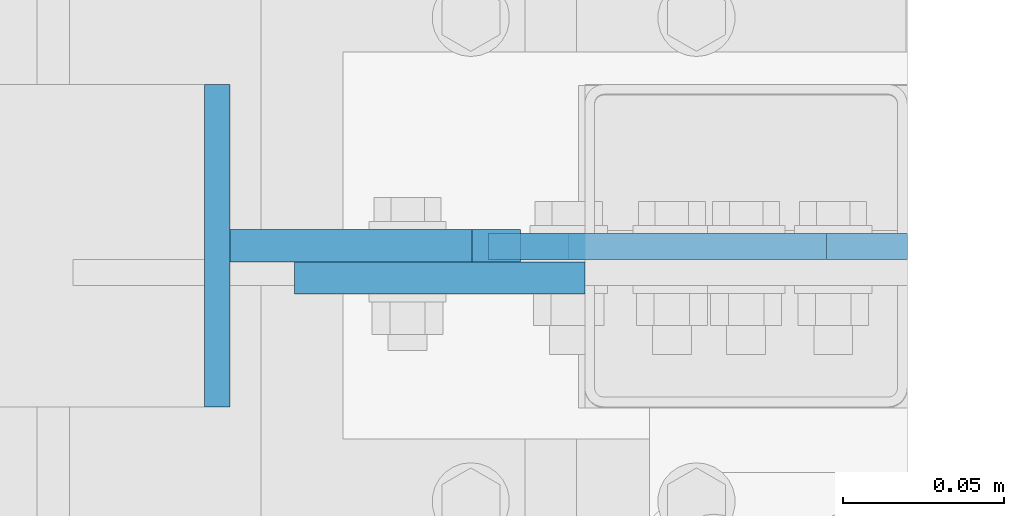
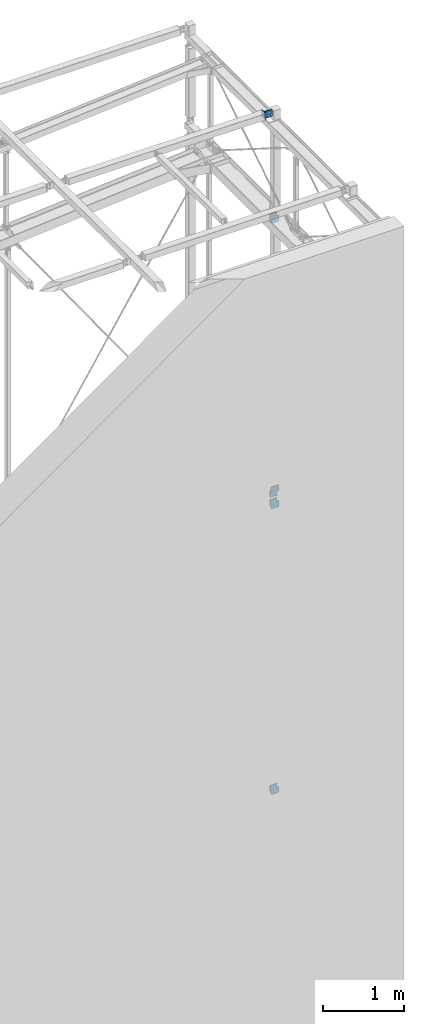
# One storey, part 176 of 271: 7 plates, 5 elements without a shape of their own.
"""IFC2X3 building model written with IfcOpenShell, lengths in millimetres."""

from ifc_helpers import new_model, si_unit, frame, origin_with_axes, place, context, subcontext, project, spatial, polyline, outline, extrude, material, type_object, element, aggregate, save


model = new_model("IFC2X3")

# Units and contexts
model_context = context("Model", 3, precision=1e-05, world=origin_with_axes())
body_context = subcontext(model_context, "Body", "Model", "MODEL_VIEW")
ifc_project = project(units=[si_unit("LENGTHUNIT", "METRE", prefix="MILLI"), si_unit("AREAUNIT", "SQUARE_METRE"), si_unit("VOLUMEUNIT", "CUBIC_METRE"), si_unit("MASSUNIT", "GRAM", prefix="KILO"), si_unit("TIMEUNIT", "SECOND"), si_unit("PLANEANGLEUNIT", "RADIAN"), si_unit("SOLIDANGLEUNIT", "STERADIAN"), si_unit("THERMODYNAMICTEMPERATUREUNIT", "DEGREE_CELSIUS"), si_unit("LUMINOUSINTENSITYUNIT", "LUMEN")], contexts=[model_context])

# Site, building, storey
site_placement = place(None, origin_with_axes())
site = spatial("IfcSite", under=ifc_project, at=site_placement, Name="Undefined", CompositionType="ELEMENT")
building_placement = place(site_placement, origin_with_axes())
building = spatial("IfcBuilding", under=site, at=building_placement, Name="Undefined", CompositionType="ELEMENT")
storey_placement = place(building_placement, origin_with_axes())
storey = spatial("IfcBuildingStorey", under=building, at=storey_placement, Name="Undefined", CompositionType="ELEMENT", Elevation=0.0)

# Assembly, plate
assembly_1_placement = place(storey_placement, origin_with_axes())
assembly_1 = element("IfcElementAssembly", 1, at=assembly_1_placement, inside=storey, AssemblyPlace="NOTDEFINED", PredefinedType="RIGID_FRAME")
ifc_material = material(Name="STEEL/S355JR")
plate_type_1 = type_object("IfcPlateType", Name="BL8*100", PredefinedType="NOTDEFINED")
plate_1_placement = place(assembly_1_placement, frame((12494.3756870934, 2749.32498425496, 20204.3499999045), z_axis=(1.0, 0.0, 0.0), x_axis=(0.0, 0.0, -1.0)))
plate_1 = element("IfcPlate", 2, at=plate_1_placement, type_object=plate_type_1, material=ifc_material, Name="BLACHA", ObjectType="BL8*100", context=body_context, shape_type="SweptSolid", body=[
    extrude(outline(polyline([(0.0, 0.0), (100.0, 0.0), (100.0, 100.0), (1.59161572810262e-12, 100.0), (0.0, 0.0)])), frame((0.0, 0.0, -4.0), z_axis=(0.0, 0.0, 1.0), x_axis=(1.0, 0.0, 0.0)), (0.0, 0.0, 1.0), 8.0),
])

# Assembly, plates
assembly_2_placement = place(storey_placement, origin_with_axes())
assembly_2 = element("IfcElementAssembly", 3, at=assembly_2_placement, inside=storey, AssemblyPlace="NOTDEFINED", PredefinedType="RIGID_FRAME")
plate_type_2 = type_object("IfcPlateType", Name="BL8*130", PredefinedType="NOTDEFINED")
plate_2_placement = place(assembly_2_placement, frame((12578.3756870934, 2799.05211980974, 18476.8499999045), z_axis=(0.0, 1.0, 0.0), x_axis=(0.0, 0.0, 1.0)))
plate_2 = element("IfcPlate", 4, at=plate_2_placement, type_object=plate_type_2, material=ifc_material, Name="BLACHA", ObjectType="BL8*130", context=body_context, shape_type="SweptSolid", body=[
    extrude(outline(polyline([(0.0, 25.0), (70.0, -8.66862137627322e-13), (150.0, -1.68398628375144e-12), (150.0, 105.0), (90.0, 105.0), (90.0, 130.0), (-3.5527136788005e-14, 130.0), (0.0, 25.0)])), frame((0.0, 0.0, -4.0), z_axis=(0.0, 0.0, 1.0), x_axis=(1.0, 0.0, 0.0)), (0.0, 0.0, 1.0), 8.0),
])
plate_3_placement = place(assembly_2_placement, frame((12578.3756870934, 2799.05211980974, 14491.8499999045), z_axis=(0.0, -1.0, 0.0), x_axis=(0.0, 0.0, -1.0)))
plate_3 = element("IfcPlate", 5, at=plate_3_placement, type_object=plate_type_2, material=ifc_material, Name="BLACHA", ObjectType="BL8*130", context=body_context, shape_type="SweptSolid", body=[
    extrude(outline(polyline([(0.0, 25.0), (70.0, -8.66862137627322e-13), (155.0, -2.06057393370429e-12), (155.0, 105.0), (94.9999999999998, 105.0), (94.9999999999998, 130.0), (-3.5527136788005e-14, 130.0), (0.0, 25.0)])), frame((0.0, 0.0, -4.0), z_axis=(0.0, 0.0, 1.0), x_axis=(1.0, 0.0, 0.0)), (0.0, 0.0, 1.0), 8.0),
])
aggregate(assembly_2, [plate_2, plate_3])

# Assembly, plate
assembly_3_placement = place(storey_placement, origin_with_axes())
assembly_3 = element("IfcElementAssembly", 6, at=assembly_3_placement, inside=storey, AssemblyPlace="NOTDEFINED", PredefinedType="RIGID_FRAME")
plate_4_placement = place(assembly_3_placement, frame((12578.3756870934, 2799.05211980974, 14156.8499999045), z_axis=(0.0, 1.0, 0.0), x_axis=(0.0, 0.0, 1.0)))
plate_4 = element("IfcPlate", 7, at=plate_4_placement, type_object=plate_type_2, material=ifc_material, Name="BLACHA", ObjectType="BL8*130", context=body_context, shape_type="SweptSolid", body=[
    extrude(outline(polyline([(0.0, 25.0), (70.0, -8.66862137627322e-13), (150.0, -1.68398628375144e-12), (150.0, 105.0), (90.0, 105.0), (90.0, 130.0), (-3.5527136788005e-14, 130.0), (0.0, 25.0)])), frame((0.0, 0.0, -4.0), z_axis=(0.0, 0.0, 1.0), x_axis=(1.0, 0.0, 0.0)), (0.0, 0.0, 1.0), 8.0),
])
aggregate(assembly_3, [plate_4])

assembly_4_placement = place(storey_placement, origin_with_axes())
assembly_4 = element("IfcElementAssembly", 8, at=assembly_4_placement, inside=storey, AssemblyPlace="NOTDEFINED", PredefinedType="RIGID_FRAME")
plate_5_placement = place(assembly_4_placement, frame((12578.3756870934, 2799.05211980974, 9836.84999990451), z_axis=(0.0, 1.0, 0.0), x_axis=(0.0, 0.0, 1.0)))
plate_5 = element("IfcPlate", 9, at=plate_5_placement, type_object=plate_type_2, material=ifc_material, Name="BLACHA", ObjectType="BL8*130", context=body_context, shape_type="SweptSolid", body=[
    extrude(outline(polyline([(0.0, 25.0), (70.0, -8.66862137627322e-13), (150.0, -1.68398628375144e-12), (150.0, 105.0), (90.0, 105.0), (90.0, 130.0), (-3.5527136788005e-14, 130.0), (0.0, 25.0)])), frame((0.0, 0.0, -4.0), z_axis=(0.0, 0.0, 1.0), x_axis=(1.0, 0.0, 0.0)), (0.0, 0.0, 1.0), 8.0),
])
aggregate(assembly_4, [plate_5])

# Plate
plate_type_3 = type_object("IfcPlateType", Name="BL10*90", PredefinedType="NOTDEFINED")
plate_6_placement = place(assembly_1_placement, frame((12573.3756870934, 2799.32498425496, 20204.3499999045), z_axis=(0.0, 1.0, 0.0), x_axis=(0.70710678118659, 0.0, -0.707106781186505)))
plate_6 = element("IfcPlate", 10, at=plate_6_placement, type_object=plate_type_3, material=ifc_material, Name="BLACHA", ObjectType="BL10*90", context=body_context, shape_type="SweptSolid", body=[
    extrude(outline(polyline([(0.0, 0.0), (21.2132034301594, 1.09139364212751e-11), (70.7106781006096, 49.4974746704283), (70.7106781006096, 70.7106781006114), (17.6776695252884, 123.743690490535), (-53.033008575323, 53.0330085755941), (0.0, 0.0)])), frame((0.0, 0.0, -5.0), z_axis=(0.0, 0.0, 1.0), x_axis=(1.0, 0.0, 0.0)), (0.0, 0.0, 1.0), 10.0),
])

aggregate(assembly_1, [plate_1, plate_6])

# Assembly, plate
assembly_5_placement = place(storey_placement, origin_with_axes())
assembly_5 = element("IfcElementAssembly", 11, at=assembly_5_placement, inside=storey, AssemblyPlace="NOTDEFINED", PredefinedType="RIGID_FRAME")
plate_7_placement = place(assembly_5_placement, frame((12608.3756870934, 2789.32498425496, 20204.3499999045), z_axis=(0.0, 1.0, 0.0), x_axis=(0.0, 0.0, -1.0)))
plate_7 = element("IfcPlate", 12, at=plate_7_placement, type_object=plate_type_3, material=ifc_material, Name="BLACHA", ObjectType="BL10*90", context=body_context, shape_type="SweptSolid", body=[
    extrude(outline(polyline([(0.0, 0.0), (100.0, 0.0), (100.0, 90.0), (0.0, 90.0), (0.0, 0.0)])), frame((0.0, 0.0, -5.0), z_axis=(0.0, 0.0, 1.0), x_axis=(1.0, 0.0, 0.0)), (0.0, 0.0, 1.0), 10.0),
])
aggregate(assembly_5, [plate_7])

save(model, "model.ifc")
